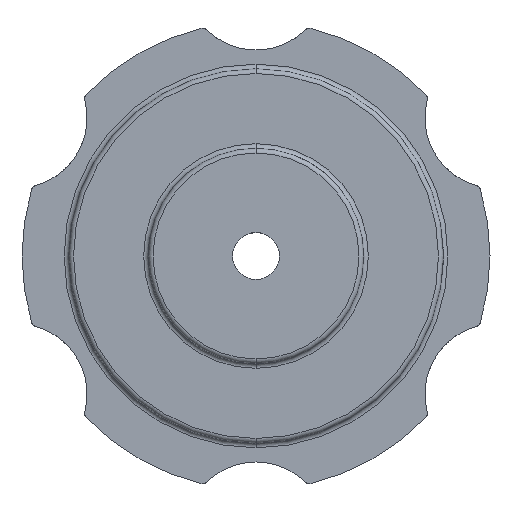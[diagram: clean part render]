
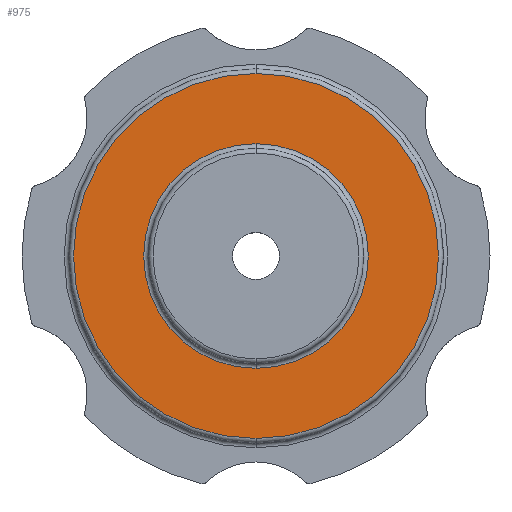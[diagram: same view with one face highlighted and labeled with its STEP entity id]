
A CAD part, front view. The second image highlights one B-rep face of the part: STEP entity #975.
In plain terms, the highlighted planar face has unit normal (0, -1, 0).
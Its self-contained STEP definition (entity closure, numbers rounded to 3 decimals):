
#20 = AXIS2_PLACEMENT_3D ( 'NONE', #1008, #628, #2392 ) ;
#85 = CIRCLE ( 'NONE', #2203, 24. ) ;
#88 = DIRECTION ( 'NONE',  ( 0., 0., -1. ) ) ;
#107 = CARTESIAN_POINT ( 'NONE',  ( 0., -18., -24. ) ) ;
#196 = EDGE_LOOP ( 'NONE', ( #2425, #2131 ) ) ;
#238 = CARTESIAN_POINT ( 'NONE',  ( 0., -18., 0. ) ) ;
#417 = AXIS2_PLACEMENT_3D ( 'NONE', #2356, #468, #2024 ) ;
#455 = CIRCLE ( 'NONE', #1918, 39. ) ;
#468 = DIRECTION ( 'NONE',  ( 0., -1., 0. ) ) ;
#607 = VERTEX_POINT ( 'NONE', #1245 ) ;
#628 = DIRECTION ( 'NONE',  ( 0., -1., 0. ) ) ;
#828 = FACE_OUTER_BOUND ( 'NONE', #1466, .T. ) ;
#844 = CARTESIAN_POINT ( 'NONE',  ( 0., -18., 24. ) ) ;
#966 = VERTEX_POINT ( 'NONE', #844 ) ;
#975 = ADVANCED_FACE ( 'NONE', ( #1045, #828 ), #1378, .T. ) ;
#1008 = CARTESIAN_POINT ( 'NONE',  ( 0., -18., 0. ) ) ;
#1014 = DIRECTION ( 'NONE',  ( 0., 1., 0. ) ) ;
#1034 = DIRECTION ( 'NONE',  ( 0., 0., -1. ) ) ;
#1045 = FACE_BOUND ( 'NONE', #196, .T. ) ;
#1049 = DIRECTION ( 'NONE',  ( 0., -1., 0. ) ) ;
#1214 = DIRECTION ( 'NONE',  ( 0., 1., 0. ) ) ;
#1238 = CARTESIAN_POINT ( 'NONE',  ( 0., -18., 0. ) ) ;
#1245 = CARTESIAN_POINT ( 'NONE',  ( 0., -18., -39. ) ) ;
#1264 = CIRCLE ( 'NONE', #417, 39. ) ;
#1378 = PLANE ( 'NONE',  #20 ) ;
#1379 = CIRCLE ( 'NONE', #2275, 24. ) ;
#1388 = EDGE_CURVE ( 'NONE', #2272, #966, #1379, .T. ) ;
#1416 = DIRECTION ( 'NONE',  ( 0., 0., -1. ) ) ;
#1466 = EDGE_LOOP ( 'NONE', ( #2358, #2028 ) ) ;
#1634 = EDGE_CURVE ( 'NONE', #607, #1657, #455, .T. ) ;
#1657 = VERTEX_POINT ( 'NONE', #1823 ) ;
#1823 = CARTESIAN_POINT ( 'NONE',  ( 0., -18., 39. ) ) ;
#1918 = AXIS2_PLACEMENT_3D ( 'NONE', #1238, #1049, #88 ) ;
#1944 = EDGE_CURVE ( 'NONE', #966, #2272, #85, .T. ) ;
#2024 = DIRECTION ( 'NONE',  ( 0., 0., -1. ) ) ;
#2028 = ORIENTED_EDGE ( 'NONE', *, *, #2126, .T. ) ;
#2126 = EDGE_CURVE ( 'NONE', #1657, #607, #1264, .T. ) ;
#2131 = ORIENTED_EDGE ( 'NONE', *, *, #1944, .T. ) ;
#2202 = CARTESIAN_POINT ( 'NONE',  ( 0., -18., 0. ) ) ;
#2203 = AXIS2_PLACEMENT_3D ( 'NONE', #2202, #1214, #1034 ) ;
#2272 = VERTEX_POINT ( 'NONE', #107 ) ;
#2275 = AXIS2_PLACEMENT_3D ( 'NONE', #238, #1014, #1416 ) ;
#2356 = CARTESIAN_POINT ( 'NONE',  ( 0., -18., 0. ) ) ;
#2358 = ORIENTED_EDGE ( 'NONE', *, *, #1634, .T. ) ;
#2392 = DIRECTION ( 'NONE',  ( 0., 0., -1. ) ) ;
#2425 = ORIENTED_EDGE ( 'NONE', *, *, #1388, .T. ) ;
